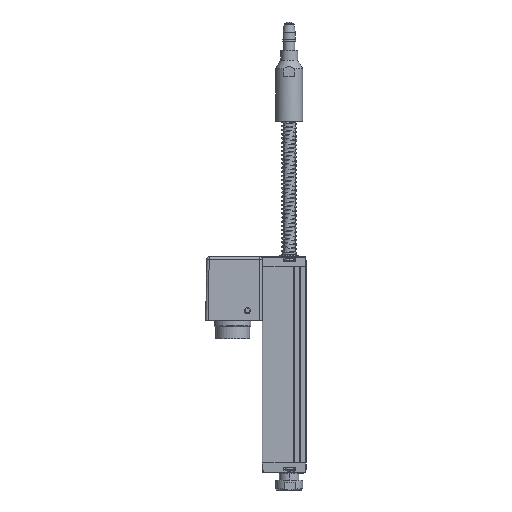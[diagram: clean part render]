
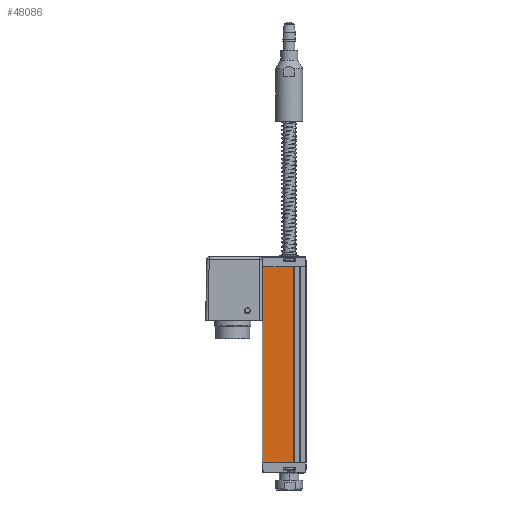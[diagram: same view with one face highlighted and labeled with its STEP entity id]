
A CAD part, left-side view. The second image highlights one B-rep face of the part: STEP entity #48086.
In plain terms, the highlighted planar face has unit normal (-1, 0, 0).
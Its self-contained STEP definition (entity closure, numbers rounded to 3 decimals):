
#42516 = VERTEX_POINT('',#42517);
#42517 = CARTESIAN_POINT('',(-9.,80.,-0.2));
#42527 = CYLINDRICAL_SURFACE('',#42528,0.2);
#42528 = AXIS2_PLACEMENT_3D('',#42529,#42530,#42531);
#42529 = CARTESIAN_POINT('',(-8.8,80.,-0.2));
#42530 = DIRECTION('',(0.,-1.,0.));
#42531 = DIRECTION('',(1.,0.,0.));
#42561 = PLANE('',#42562);
#42562 = AXIS2_PLACEMENT_3D('',#42563,#42564,#42565);
#42563 = CARTESIAN_POINT('',(-9.,80.,0.));
#42564 = DIRECTION('',(-0.999,0.052,
    0.));
#42565 = DIRECTION('',(-0.052,-0.999,
    0.));
#42579 = EDGE_CURVE('',#42580,#42516,#42582,.T.);
#42580 = VERTEX_POINT('',#42581);
#42581 = CARTESIAN_POINT('',(-9.,0.,-0.2));
#42582 = SURFACE_CURVE('',#42583,(#42587,#42616),.PCURVE_S1.);
#42583 = LINE('',#42584,#42585);
#42584 = CARTESIAN_POINT('',(-9.,80.,-0.2));
#42585 = VECTOR('',#42586,1.);
#42586 = DIRECTION('',(0.,1.,0.));
#42587 = PCURVE('',#42527,#42588);
#42588 = DEFINITIONAL_REPRESENTATION('',(#42589),#42615);
#42589 = B_SPLINE_CURVE_WITH_KNOTS('',3,(#42590,#42591,#42592,#42593,
    #42594,#42595,#42596,#42597,#42598,#42599,#42600,#42601,#42602,
    #42603,#42604,#42605,#42606,#42607,#42608,#42609,#42610,#42611,
    #42612,#42613,#42614),.UNSPECIFIED.,.F.,.F.,(4,1,1,1,1,1,1,1,1,1,1,1
    ,1,1,1,1,1,1,1,1,1,1,4),(-80.,-76.364,-72.727,
    -69.091,-65.455,-61.818,-58.182,
    -54.545,-50.909,-47.273,-43.636,-40.
    ,-36.364,-32.727,-29.091,-25.455,
    -21.818,-18.182,-14.545,-10.909,
    -7.273,-3.636,0.),.UNSPECIFIED.);
#42590 = CARTESIAN_POINT('',(3.142,80.));
#42591 = CARTESIAN_POINT('',(3.142,78.788));
#42592 = CARTESIAN_POINT('',(3.142,76.364));
#42593 = CARTESIAN_POINT('',(3.142,72.727));
#42594 = CARTESIAN_POINT('',(3.142,69.091));
#42595 = CARTESIAN_POINT('',(3.142,65.455));
#42596 = CARTESIAN_POINT('',(3.142,61.818));
#42597 = CARTESIAN_POINT('',(3.142,58.182));
#42598 = CARTESIAN_POINT('',(3.142,54.545));
#42599 = CARTESIAN_POINT('',(3.142,50.909));
#42600 = CARTESIAN_POINT('',(3.142,47.273));
#42601 = CARTESIAN_POINT('',(3.142,43.636));
#42602 = CARTESIAN_POINT('',(3.142,40.));
#42603 = CARTESIAN_POINT('',(3.142,36.364));
#42604 = CARTESIAN_POINT('',(3.142,32.727));
#42605 = CARTESIAN_POINT('',(3.142,29.091));
#42606 = CARTESIAN_POINT('',(3.142,25.455));
#42607 = CARTESIAN_POINT('',(3.142,21.818));
#42608 = CARTESIAN_POINT('',(3.142,18.182));
#42609 = CARTESIAN_POINT('',(3.142,14.545));
#42610 = CARTESIAN_POINT('',(3.142,10.909));
#42611 = CARTESIAN_POINT('',(3.142,7.273));
#42612 = CARTESIAN_POINT('',(3.142,3.636));
#42613 = CARTESIAN_POINT('',(3.142,1.212));
#42614 = CARTESIAN_POINT('',(3.142,0.));
#42615 = ( GEOMETRIC_REPRESENTATION_CONTEXT(2) 
PARAMETRIC_REPRESENTATION_CONTEXT() REPRESENTATION_CONTEXT('2D SPACE',''
  ) );
#42616 = PCURVE('',#42617,#42622);
#42617 = PLANE('',#42618);
#42618 = AXIS2_PLACEMENT_3D('',#42619,#42620,#42621);
#42619 = CARTESIAN_POINT('',(-9.,80.,0.));
#42620 = DIRECTION('',(-1.,0.,0.));
#42621 = DIRECTION('',(0.,0.,-1.));
#42622 = DEFINITIONAL_REPRESENTATION('',(#42623),#42627);
#42623 = LINE('',#42624,#42625);
#42624 = CARTESIAN_POINT('',(0.2,0.));
#42625 = VECTOR('',#42626,1.);
#42626 = DIRECTION('',(0.,-1.));
#42627 = ( GEOMETRIC_REPRESENTATION_CONTEXT(2) 
PARAMETRIC_REPRESENTATION_CONTEXT() REPRESENTATION_CONTEXT('2D SPACE',''
  ) );
#46591 = PLANE('',#46592);
#46592 = AXIS2_PLACEMENT_3D('',#46593,#46594,#46595);
#46593 = CARTESIAN_POINT('',(-9.,0.,0.));
#46594 = DIRECTION('',(-0.999,-0.052,
    0.));
#46595 = DIRECTION('',(0.052,-0.999,0.));
#47380 = VERTEX_POINT('',#47381);
#47381 = CARTESIAN_POINT('',(-9.,0.,-12.8));
#47391 = CYLINDRICAL_SURFACE('',#47392,0.2);
#47392 = AXIS2_PLACEMENT_3D('',#47393,#47394,#47395);
#47393 = CARTESIAN_POINT('',(-8.8,80.,-12.8));
#47394 = DIRECTION('',(0.,-1.,0.));
#47395 = DIRECTION('',(1.,0.,0.));
#47432 = EDGE_CURVE('',#47433,#47380,#47435,.T.);
#47433 = VERTEX_POINT('',#47434);
#47434 = CARTESIAN_POINT('',(-9.,80.,-12.8));
#47435 = SURFACE_CURVE('',#47436,(#47440,#47469),.PCURVE_S1.);
#47436 = LINE('',#47437,#47438);
#47437 = CARTESIAN_POINT('',(-9.,0.,-12.8));
#47438 = VECTOR('',#47439,1.);
#47439 = DIRECTION('',(0.,-1.,0.));
#47440 = PCURVE('',#47391,#47441);
#47441 = DEFINITIONAL_REPRESENTATION('',(#47442),#47468);
#47442 = B_SPLINE_CURVE_WITH_KNOTS('',3,(#47443,#47444,#47445,#47446,
    #47447,#47448,#47449,#47450,#47451,#47452,#47453,#47454,#47455,
    #47456,#47457,#47458,#47459,#47460,#47461,#47462,#47463,#47464,
    #47465,#47466,#47467),.UNSPECIFIED.,.F.,.F.,(4,1,1,1,1,1,1,1,1,1,1,1
    ,1,1,1,1,1,1,1,1,1,1,4),(-80.,-76.364,-72.727,
    -69.091,-65.455,-61.818,-58.182,
    -54.545,-50.909,-47.273,-43.636,-40.
    ,-36.364,-32.727,-29.091,-25.455,
    -21.818,-18.182,-14.545,-10.909,
    -7.273,-3.636,0.),.UNSPECIFIED.);
#47443 = CARTESIAN_POINT('',(3.142,0.));
#47444 = CARTESIAN_POINT('',(3.142,1.212));
#47445 = CARTESIAN_POINT('',(3.142,3.636));
#47446 = CARTESIAN_POINT('',(3.142,7.273));
#47447 = CARTESIAN_POINT('',(3.142,10.909));
#47448 = CARTESIAN_POINT('',(3.142,14.545));
#47449 = CARTESIAN_POINT('',(3.142,18.182));
#47450 = CARTESIAN_POINT('',(3.142,21.818));
#47451 = CARTESIAN_POINT('',(3.142,25.455));
#47452 = CARTESIAN_POINT('',(3.142,29.091));
#47453 = CARTESIAN_POINT('',(3.142,32.727));
#47454 = CARTESIAN_POINT('',(3.142,36.364));
#47455 = CARTESIAN_POINT('',(3.142,40.));
#47456 = CARTESIAN_POINT('',(3.142,43.636));
#47457 = CARTESIAN_POINT('',(3.142,47.273));
#47458 = CARTESIAN_POINT('',(3.142,50.909));
#47459 = CARTESIAN_POINT('',(3.142,54.545));
#47460 = CARTESIAN_POINT('',(3.142,58.182));
#47461 = CARTESIAN_POINT('',(3.142,61.818));
#47462 = CARTESIAN_POINT('',(3.142,65.455));
#47463 = CARTESIAN_POINT('',(3.142,69.091));
#47464 = CARTESIAN_POINT('',(3.142,72.727));
#47465 = CARTESIAN_POINT('',(3.142,76.364));
#47466 = CARTESIAN_POINT('',(3.142,78.788));
#47467 = CARTESIAN_POINT('',(3.142,80.));
#47468 = ( GEOMETRIC_REPRESENTATION_CONTEXT(2) 
PARAMETRIC_REPRESENTATION_CONTEXT() REPRESENTATION_CONTEXT('2D SPACE',''
  ) );
#47469 = PCURVE('',#42617,#47470);
#47470 = DEFINITIONAL_REPRESENTATION('',(#47471),#47475);
#47471 = LINE('',#47472,#47473);
#47472 = CARTESIAN_POINT('',(12.8,80.));
#47473 = VECTOR('',#47474,1.);
#47474 = DIRECTION('',(0.,1.));
#47475 = ( GEOMETRIC_REPRESENTATION_CONTEXT(2) 
PARAMETRIC_REPRESENTATION_CONTEXT() REPRESENTATION_CONTEXT('2D SPACE',''
  ) );
#48086 = ADVANCED_FACE('',(#48087),#42617,.T.);
#48087 = FACE_BOUND('',#48088,.T.);
#48088 = EDGE_LOOP('',(#48089,#48110,#48111,#48132));
#48089 = ORIENTED_EDGE('',*,*,#48090,.T.);
#48090 = EDGE_CURVE('',#42516,#47433,#48091,.T.);
#48091 = SURFACE_CURVE('',#48092,(#48096,#48103),.PCURVE_S1.);
#48092 = LINE('',#48093,#48094);
#48093 = CARTESIAN_POINT('',(-9.,80.,0.));
#48094 = VECTOR('',#48095,1.);
#48095 = DIRECTION('',(0.,0.,-1.));
#48096 = PCURVE('',#42617,#48097);
#48097 = DEFINITIONAL_REPRESENTATION('',(#48098),#48102);
#48098 = LINE('',#48099,#48100);
#48099 = CARTESIAN_POINT('',(0.,0.));
#48100 = VECTOR('',#48101,1.);
#48101 = DIRECTION('',(1.,0.));
#48102 = ( GEOMETRIC_REPRESENTATION_CONTEXT(2) 
PARAMETRIC_REPRESENTATION_CONTEXT() REPRESENTATION_CONTEXT('2D SPACE',''
  ) );
#48103 = PCURVE('',#42561,#48104);
#48104 = DEFINITIONAL_REPRESENTATION('',(#48105),#48109);
#48105 = LINE('',#48106,#48107);
#48106 = CARTESIAN_POINT('',(0.,0.));
#48107 = VECTOR('',#48108,1.);
#48108 = DIRECTION('',(0.,-1.));
#48109 = ( GEOMETRIC_REPRESENTATION_CONTEXT(2) 
PARAMETRIC_REPRESENTATION_CONTEXT() REPRESENTATION_CONTEXT('2D SPACE',''
  ) );
#48110 = ORIENTED_EDGE('',*,*,#47432,.T.);
#48111 = ORIENTED_EDGE('',*,*,#48112,.F.);
#48112 = EDGE_CURVE('',#42580,#47380,#48113,.T.);
#48113 = SURFACE_CURVE('',#48114,(#48118,#48125),.PCURVE_S1.);
#48114 = LINE('',#48115,#48116);
#48115 = CARTESIAN_POINT('',(-9.,0.,0.));
#48116 = VECTOR('',#48117,1.);
#48117 = DIRECTION('',(0.,0.,-1.));
#48118 = PCURVE('',#42617,#48119);
#48119 = DEFINITIONAL_REPRESENTATION('',(#48120),#48124);
#48120 = LINE('',#48121,#48122);
#48121 = CARTESIAN_POINT('',(0.,80.));
#48122 = VECTOR('',#48123,1.);
#48123 = DIRECTION('',(1.,0.));
#48124 = ( GEOMETRIC_REPRESENTATION_CONTEXT(2) 
PARAMETRIC_REPRESENTATION_CONTEXT() REPRESENTATION_CONTEXT('2D SPACE',''
  ) );
#48125 = PCURVE('',#46591,#48126);
#48126 = DEFINITIONAL_REPRESENTATION('',(#48127),#48131);
#48127 = LINE('',#48128,#48129);
#48128 = CARTESIAN_POINT('',(0.,0.));
#48129 = VECTOR('',#48130,1.);
#48130 = DIRECTION('',(0.,-1.));
#48131 = ( GEOMETRIC_REPRESENTATION_CONTEXT(2) 
PARAMETRIC_REPRESENTATION_CONTEXT() REPRESENTATION_CONTEXT('2D SPACE',''
  ) );
#48132 = ORIENTED_EDGE('',*,*,#42579,.T.);
